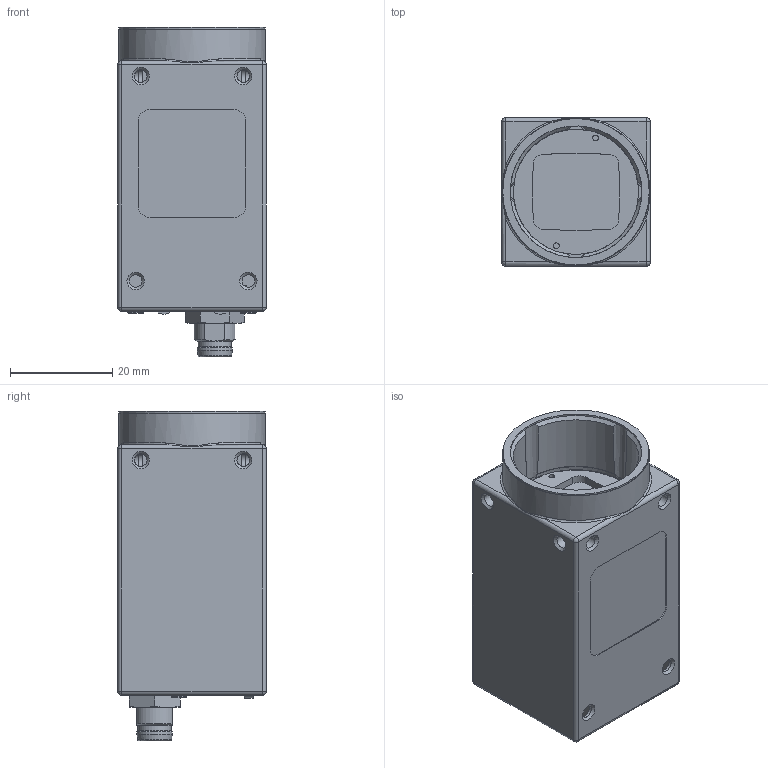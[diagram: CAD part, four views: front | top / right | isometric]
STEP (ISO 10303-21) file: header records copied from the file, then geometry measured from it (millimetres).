
FILE_DESCRIPTION(/* description */ ('Unknown'),/* implementation_level */ '2;1');
FILE_NAME(/* name */ 'VCXG-241C',/* time_stamp */ '2021-03-01T12:28:48+01:00',/* author */ ('Unknown'),/* organization */ ('Baumer'),/* preprocessor_version */ 'ST-DEVELOPER v16.7',/* originating_system */ 'Solid Edge',/* authorisation */ 'Unknown');
FILE_SCHEMA (('AUTOMOTIVE_DESIGN {1 0 10303 214 3 1 1}'));
Products named in the file (1): Part2
Bounding box: 29 x 29 x 64.35 mm (x, y, z)
Volume: 13844.3 mm3; surface area: 23153.7 mm2
Topology: 3 solids, 8 shells, 2069 faces, 5407 edges, 3581 vertices
Faces by surface type: plane 1250, cylinder 648, cone 100, torus 30, bspline 23, sphere 18
Full cylindrical faces by diameter (mm): 0.217 x1, 0.6 x242, 1.075 x2, 1.1 x2, 1.4 x4, 1.567 x2, 1.6 x2, 1.9 x4, 2.459 x10, 3 x4, 6.5 x1, 6.9 x1, 8.4 x1, 9 x1, 9.4 x1, 25.7 x1, 26 x1, 28.6 x1, 28.7 x1
Entity records: 74637 total; most frequent: CARTESIAN_POINT 11819, DIRECTION 10007, ORIENTED_EDGE 9476, EDGE_CURVE 4738, AXIS2_PLACEMENT_3D 3576, VERTEX_POINT 3280, LINE 2855, VECTOR 2855
